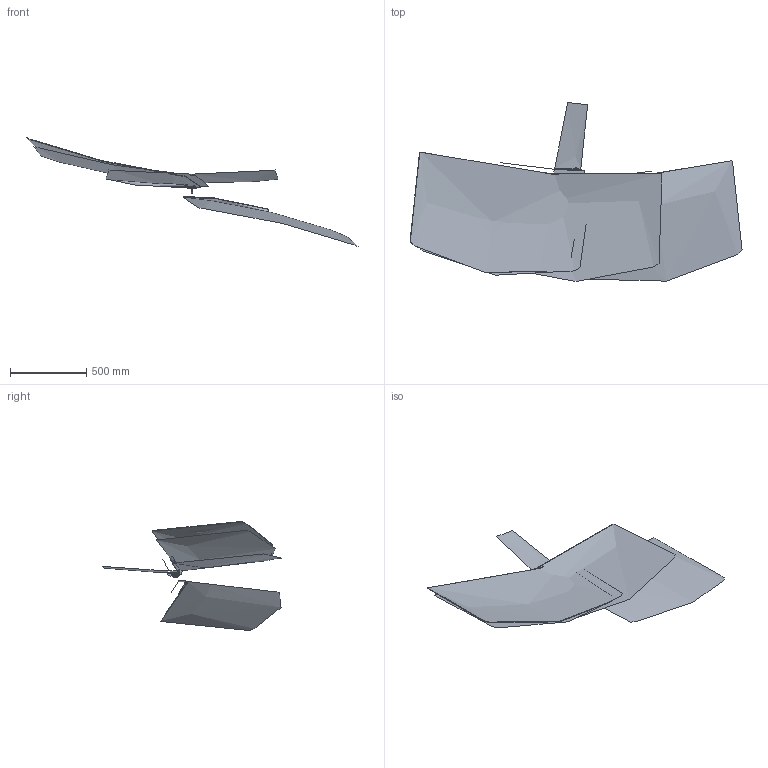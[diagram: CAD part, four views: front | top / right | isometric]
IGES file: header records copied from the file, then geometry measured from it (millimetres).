
Start section: START RECORD GO HERE.
Global section: file name: 5467378__0101__UNTERSTANDSLEHRE.igs; native system: DASSAULT SYSTEMES CATIA V5 R19 - www.3ds.com; preprocessor: CATIA Version 5 Release 19 SP 9 ; author: catadm; organization: CAD4; date: 20110816.114130; units: millimetre
Bounding box: 2172.68 x 1171.27 x 714.23 mm (x, y, z)
Surface area: 9227618.1 mm2 (no closed solid volume)
Topology: 0 solids, 0 shells, 954 faces, 7410 edges, 7413 vertices
Faces by surface type: plane 851, revolution 57, bspline 46
